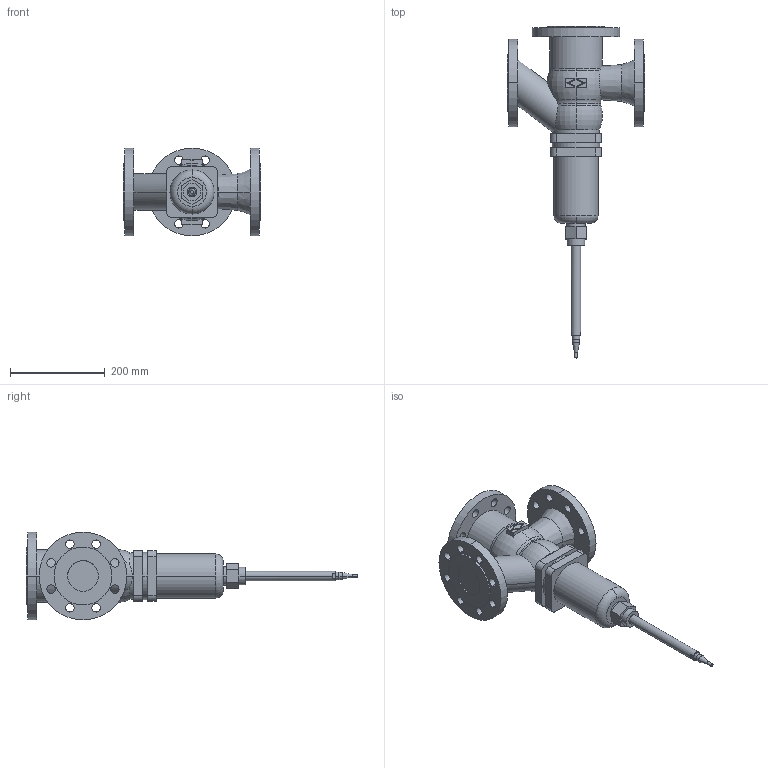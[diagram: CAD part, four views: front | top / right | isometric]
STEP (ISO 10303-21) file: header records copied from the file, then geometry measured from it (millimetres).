
FILE_DESCRIPTION( ( '' ), '1' );
FILE_NAME( 'F:/DE-SHS/TB/OR/04-Sonstiges/daten/files_3d/773-Mischventil/773-Mischventil_PN25/c000006174.stp', '2016-04-11T09:10:13', ( '' ), ( '' ), ' ', ' ', ' ' );
FILE_SCHEMA( ( 'CONFIG_CONTROL_DESIGN' ) );
Length unit declared in the file: millimetre
Products named in the file (1): 1
Bounding box: 290 x 699.44 x 185 mm (x, y, z)
Volume: 5877208.7 mm3; surface area: 396047.4 mm2
Topology: 1 solids, 1 shells, 176 faces, 450 edges, 296 vertices
Faces by surface type: cylinder 94, plane 60, torus 16, cone 6
Entity records: 5880 total; most frequent: CARTESIAN_POINT 1265, DIRECTION 1024, ORIENTED_EDGE 900, EDGE_CURVE 450, AXIS2_PLACEMENT_3D 417, VERTEX_POINT 296, EDGE_LOOP 244, CIRCLE 238
